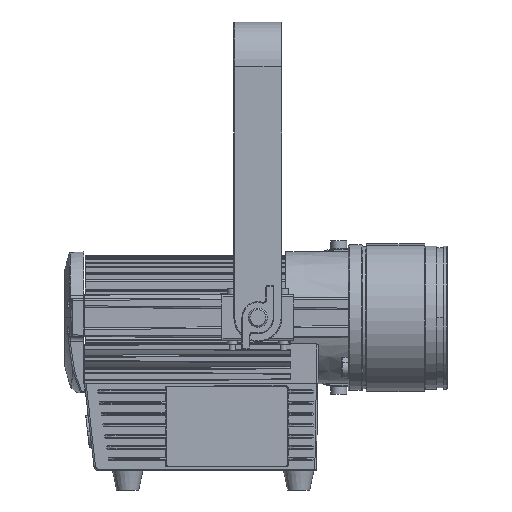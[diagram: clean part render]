
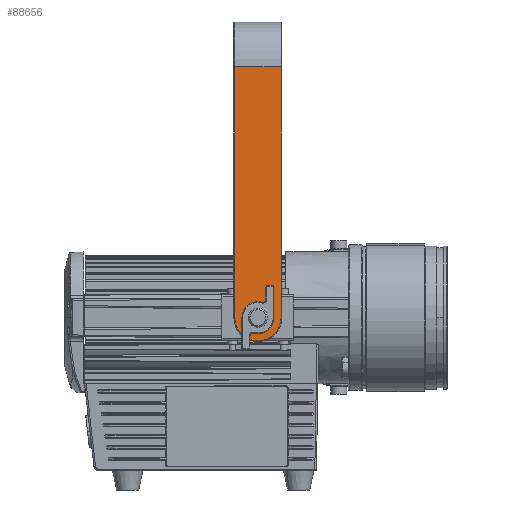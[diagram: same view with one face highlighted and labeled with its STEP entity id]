
A CAD part, left-side view. The second image highlights one B-rep face of the part: STEP entity #88656.
In plain terms, the highlighted planar face has unit normal (-1, 0, 0).
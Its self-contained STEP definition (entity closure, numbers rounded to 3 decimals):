
#87849=DIRECTION('',(0.,0.,1.));
#87850=VECTOR('',#87849,157.);
#87851=CARTESIAN_POINT('',(-61.,14.5,-180.));
#87852=LINE('',#87851,#87850);
#87857=CARTESIAN_POINT('',(-61.,0.,-180.));
#87858=DIRECTION('',(-1.,0.,0.));
#87859=DIRECTION('',(0.,-1.,-0.024));
#87860=AXIS2_PLACEMENT_3D('',#87857,#87858,#87859);
#87862=CARTESIAN_POINT('',(-61.,0.,-180.));
#87863=DIRECTION('',(-1.,0.,0.));
#87864=DIRECTION('',(0.,1.,0.));
#87865=AXIS2_PLACEMENT_3D('',#87862,#87863,#87864);
#87867=CARTESIAN_POINT('',(-61.,0.,-180.));
#87868=DIRECTION('',(1.,0.,0.));
#87869=DIRECTION('',(0.,0.,-1.));
#87870=AXIS2_PLACEMENT_3D('',#87867,#87868,#87869);
#87872=CARTESIAN_POINT('',(-61.,0.,-180.));
#87873=DIRECTION('',(1.,0.,0.));
#87874=DIRECTION('',(0.,-1.,0.));
#87875=AXIS2_PLACEMENT_3D('',#87872,#87873,#87874);
#87877=CARTESIAN_POINT('',(-61.,0.,-180.));
#87878=DIRECTION('',(1.,0.,0.));
#87879=DIRECTION('',(0.,0.,1.));
#87880=AXIS2_PLACEMENT_3D('',#87877,#87878,#87879);
#87882=CARTESIAN_POINT('',(-61.,0.,-180.));
#87883=DIRECTION('',(1.,0.,0.));
#87884=DIRECTION('',(0.,1.,0.));
#87885=AXIS2_PLACEMENT_3D('',#87882,#87883,#87884);
#87891=DIRECTION('',(0.,-1.,0.));
#87892=VECTOR('',#87891,29.);
#87893=CARTESIAN_POINT('',(-61.,14.5,-23.));
#87894=LINE('',#87893,#87892);
#88042=DIRECTION('',(0.,0.,-1.));
#88043=VECTOR('',#88042,157.);
#88044=CARTESIAN_POINT('',(-61.,-14.5,-23.));
#88045=LINE('',#88044,#88043);
#88375=CARTESIAN_POINT('',(-61.,14.5,-23.));
#88377=VERTEX_POINT('',#88375);
#88382=CARTESIAN_POINT('',(-61.,-14.5,-23.));
#88383=VERTEX_POINT('',#88382);
#88388=CARTESIAN_POINT('',(-61.,-14.5,-180.));
#88389=VERTEX_POINT('',#88388);
#88390=CARTESIAN_POINT('',(-61.,14.5,-180.));
#88391=VERTEX_POINT('',#88390);
#88392=CARTESIAN_POINT('',(-61.,0.,-176.75));
#88393=CARTESIAN_POINT('',(-61.,-3.25,-180.));
#88394=VERTEX_POINT('',#88392);
#88395=VERTEX_POINT('',#88393);
#88396=CARTESIAN_POINT('',(-61.,0.,-183.25));
#88397=VERTEX_POINT('',#88396);
#88404=CARTESIAN_POINT('',(-61.,3.25,-180.));
#88405=VERTEX_POINT('',#88404);
#88420=CARTESIAN_POINT('',(-61.,-14.496,-180.351));
#88421=VERTEX_POINT('',#88420);
#88630=CARTESIAN_POINT('',(-61.,-17.683,-5.567));
#88631=DIRECTION('',(-1.,0.,0.));
#88632=DIRECTION('',(0.,1.,0.));
#88633=AXIS2_PLACEMENT_3D('',#88630,#88631,#88632);
#88634=PLANE('',#88633);
#88635=ORIENTED_EDGE('',*,*,#88620,.T.);
#88637=ORIENTED_EDGE('',*,*,#88636,.T.);
#88639=ORIENTED_EDGE('',*,*,#88638,.T.);
#88641=ORIENTED_EDGE('',*,*,#88640,.F.);
#88643=ORIENTED_EDGE('',*,*,#88642,.F.);
#88644=EDGE_LOOP('',(#88635,#88637,#88639,#88641,#88643));
#88645=FACE_OUTER_BOUND('',#88644,.F.);
#88647=ORIENTED_EDGE('',*,*,#88646,.F.);
#88649=ORIENTED_EDGE('',*,*,#88648,.F.);
#88651=ORIENTED_EDGE('',*,*,#88650,.F.);
#88653=ORIENTED_EDGE('',*,*,#88652,.F.);
#88654=EDGE_LOOP('',(#88647,#88649,#88651,#88653));
#88655=FACE_BOUND('',#88654,.F.);
#87861=CIRCLE('',#87860,14.5);
#87866=CIRCLE('',#87865,14.5);
#87871=CIRCLE('',#87870,3.25);
#87876=CIRCLE('',#87875,3.25);
#87881=CIRCLE('',#87880,3.25);
#87886=CIRCLE('',#87885,3.25);
#88620=EDGE_CURVE('',#88391,#88377,#87852,.T.);
#88636=EDGE_CURVE('',#88377,#88383,#87894,.T.);
#88638=EDGE_CURVE('',#88383,#88389,#88045,.T.);
#88640=EDGE_CURVE('',#88421,#88389,#87861,.T.);
#88642=EDGE_CURVE('',#88391,#88421,#87866,.T.);
#88646=EDGE_CURVE('',#88397,#88405,#87871,.T.);
#88648=EDGE_CURVE('',#88395,#88397,#87876,.T.);
#88650=EDGE_CURVE('',#88394,#88395,#87881,.T.);
#88652=EDGE_CURVE('',#88405,#88394,#87886,.T.);
#88656=ADVANCED_FACE('',(#88645,#88655),#88634,.T.);
